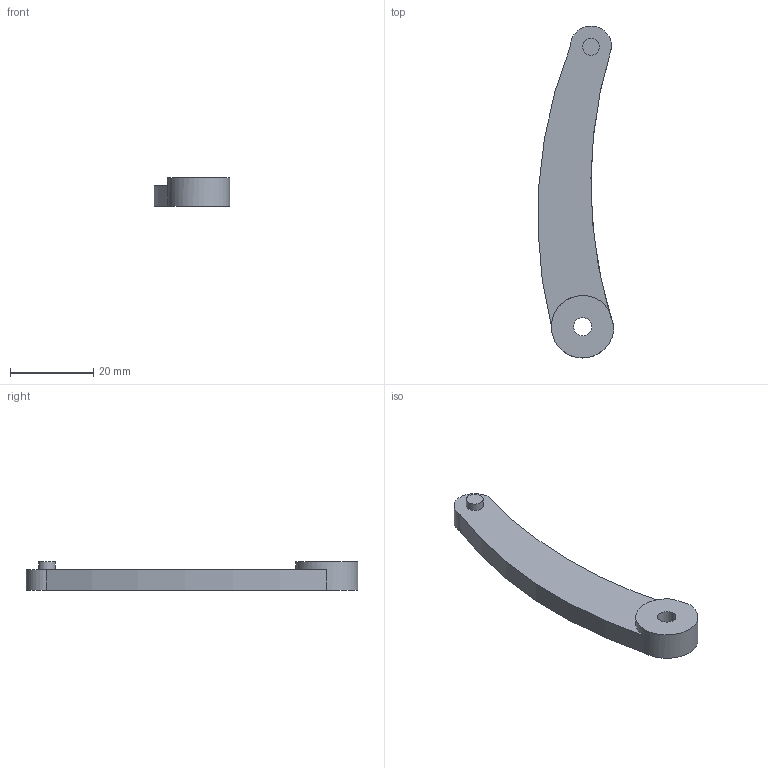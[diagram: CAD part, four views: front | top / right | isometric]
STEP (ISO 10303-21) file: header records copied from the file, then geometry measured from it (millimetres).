
FILE_DESCRIPTION(/* description */ ('STEP AP242 Edition 2','CAx-IF Rec.Pracs.---Representation and Presentation of Product Manufacturing Information (PMI)---4.0---2014-10-13','CAx-IF Rec.Pracs.---3D Tessellated Geometry---0.4---2014-09-14','2;1','CAx-IF Rec.Pracs.---User Defined Attributes---1.5---2016-08-15'),/* implementation_level */ '2;1');
FILE_NAME(/* name */ 'Part Studio 1 - arm_left',/* time_stamp */ '2026-04-19T16:25:01Z',/* author */ (''),/* organization */ (''),/* preprocessor_version */ 'ST-DEVELOPER v20',/* originating_system */ 'ONSHAPE BY PTC INC, 1.213',/* authorisation */ ' ');
FILE_SCHEMA (('AP242_MANAGED_MODEL_BASED_3D_ENGINEERING_MIM_LF { 1 0 10303 442 3 1 4 }'));
Length unit declared in the file: metre
Products named in the file (1): arm_left
Bounding box: 18.2 x 79.74 x 6.9 mm (x, y, z)
Volume: 5101.2 mm3; surface area: 2998.1 mm2
Topology: 1 solids, 1 shells, 10 faces, 21 edges, 14 vertices
Faces by surface type: cylinder 6, plane 4
Full cylindrical faces by diameter (mm): 4 x1, 4.4 x1
Entity records: 295 total; most frequent: DIRECTION 55, CARTESIAN_POINT 44, ORIENTED_EDGE 38, AXIS2_PLACEMENT_3D 25, EDGE_CURVE 19, EDGE_LOOP 15, FACE_BOUND 15, VERTEX_POINT 14
